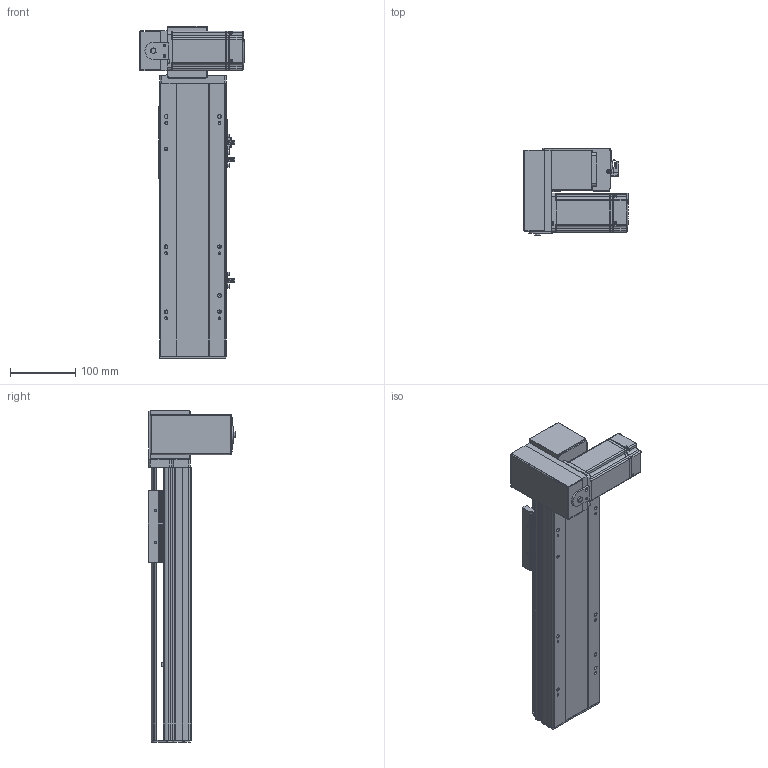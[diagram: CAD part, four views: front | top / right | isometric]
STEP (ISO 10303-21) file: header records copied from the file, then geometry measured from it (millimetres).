
FILE_DESCRIPTION (( 'STEP AP214' ), '1' );
FILE_NAME ('TPT10-L32-200-LD-T10-C4.STEP', '2023-03-02T10:10:40', ( '' ), ( '' ), 'SwSTEP 2.0', 'SolidWorks 2020', '' );
FILE_SCHEMA (( 'AUTOMOTIVE_DESIGN' ));
Length unit declared in the file: millimetre
Products named in the file (12): 葩璃 TPT10-L-009 萇儂啣^TPT10-L32-LD-T10-C4_100W; hex nuts, style 1-grades ab gb_GB_FASTENER_NUT_SNAB1 M3-N; hexagon head bolts-full thread gb_GB_FASTENER_BOLT_STBAB A M5X16-N; 葩璃 侂狟100W^TPT10-L32-LD-T10-C4; TPT10-L32-200-LD-T10-C4; hexagon socket head cap screws gb_GB_FASTENER_SCREWS_HSHCS M3X6-N; 葩璃 TPT10-L-005 賑釱MZ-102A-03^TPT10-L32-LD-T10-C4; 葩璃 侂狟400W^TPT10-L32-LD-T10-C4; 葩璃 TPT10-L-002 奻裔MZ-102A-02^TPT10-L32-LD-T10-C4; 葩璃 TPT10-L-001 菁釱MZ-102A-01^TPT10-L32-LD-T10-C4; 葩璃 TPT10-L-007 々湍釱MZ-169x88^TPT10-L32-LD-T10-C4_L; 葩璃 pm-t65-672^TPT10-L32-LD-T10-C4
Assembly tree (23 placements, depth 2):
  TPT10-L32-200-LD-T10-C4
    葩璃 TPT10-L-001 菁釱MZ-102A-01^TPT10-L32-LD-T10-C4
    葩璃 TPT10-L-002 奻裔MZ-102A-02^TPT10-L32-LD-T10-C4
    葩璃 TPT10-L-007 々湍釱MZ-169x88^TPT10-L32-LD-T10-C4_L
    葩璃 TPT10-L-005 賑釱MZ-102A-03^TPT10-L32-LD-T10-C4
    葩璃 TPT10-L-009 萇儂啣^TPT10-L32-LD-T10-C4_100W
    葩璃 pm-t65-672^TPT10-L32-LD-T10-C4  x3
    葩璃 侂狟100W^TPT10-L32-LD-T10-C4
    葩璃 侂狟400W^TPT10-L32-LD-T10-C4
    hexagon head bolts-full thread gb_GB_FASTENER_BOLT_STBAB A M5X16-N
    hexagon socket head cap screws gb_GB_FASTENER_SCREWS_HSHCS M3X6-N  x6
    hex nuts, style 1-grades ab gb_GB_FASTENER_NUT_SNAB1 M3-N  x6
Bounding box: 160.5 x 134.65 x 510 mm (x, y, z)
Volume: 2191555.6 mm3; surface area: 473576.8 mm2
Topology: 31 solids, 31 shells, 1851 faces, 4833 edges, 3095 vertices
Faces by surface type: plane 1032, cylinder 587, cone 186, bspline 34, torus 12
Entity records: 46159 total; most frequent: CARTESIAN_POINT 9020, DIRECTION 7564, ORIENTED_EDGE 7306, EDGE_CURVE 3653, AXIS2_PLACEMENT_3D 2644, VERTEX_POINT 2386, VECTOR 2276, LINE 2276
